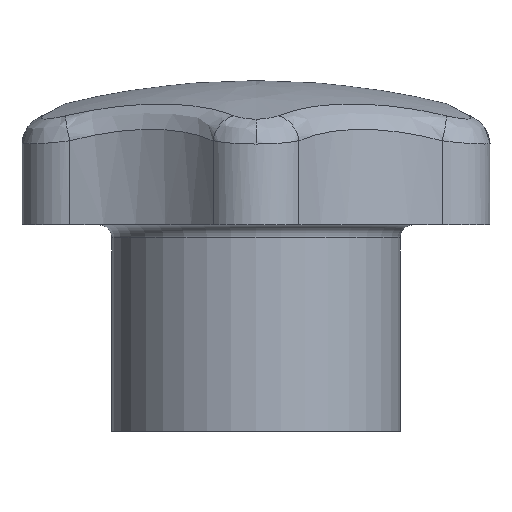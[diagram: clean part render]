
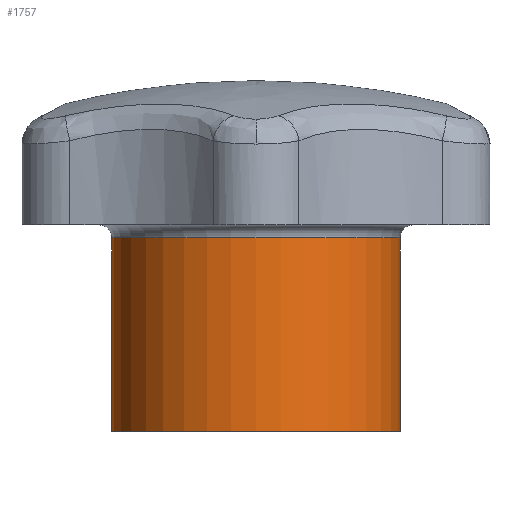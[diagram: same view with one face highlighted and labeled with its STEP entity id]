
A CAD part, left-side view. The second image highlights one B-rep face of the part: STEP entity #1757.
In plain terms, the highlighted cylindrical face has radius 11 mm (diameter 22 mm), a full revolution.
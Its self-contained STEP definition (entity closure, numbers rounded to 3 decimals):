
#1725=CARTESIAN_POINT('',(0.,0.,15.75));
#1726=DIRECTION('',(-1.,0.,0.));
#1727=DIRECTION('',(0.,0.,-1.));
#1728=AXIS2_PLACEMENT_3D('',#1725,#1727,#1726);
#1729=CYLINDRICAL_SURFACE('',#1728,11.);
#1730=CARTESIAN_POINT('',(-11.,0.,14.75));
#1731=VERTEX_POINT('',#1730);
#1732=CARTESIAN_POINT('',(-11.,0.,0.));
#1733=VERTEX_POINT('',#1732);
#1734=CARTESIAN_POINT('',(-11.,0.,14.75));
#1735=DIRECTION('',(0.,0.,-1.));
#1736=VECTOR('',#1735,14.75);
#1737=LINE('',#1734,#1736);
#1738=EDGE_CURVE('',#1731,#1733,#1737,.T.);
#1739=ORIENTED_EDGE('E55',*,*,#1738,.F.);
#1740=CARTESIAN_POINT('',(0.,0.,14.75));
#1741=DIRECTION('',(-1.,0.,0.));
#1742=DIRECTION('',(0.,0.,1.));
#1743=AXIS2_PLACEMENT_3D('',#1740,#1742,#1741);
#1744=CIRCLE('',#1743,11.);
#1745=EDGE_CURVE('',#1731,#1731,#1744,.T.);
#1746=ORIENTED_EDGE('E123',*,*,#1745,.F.);
#1747=ORIENTED_EDGE('E123',*,*,#1738,.T.);
#1748=CARTESIAN_POINT('',(0.,0.,0.));
#1749=DIRECTION('',(-1.,-0.,0.));
#1750=DIRECTION('',(0.,0.,1.));
#1751=AXIS2_PLACEMENT_3D('',#1748,#1750,#1749);
#1752=CIRCLE('',#1751,11.);
#1753=EDGE_CURVE('',#1733,#1733,#1752,.T.);
#1754=ORIENTED_EDGE('E57',*,*,#1753,.T.);
#1755=EDGE_LOOP('',(#1739,#1746,#1747,#1754));
#1756=FACE_OUTER_BOUND('',#1755,.T.);
#1757=ADVANCED_FACE('F50',(#1756),#1729,.T.);
